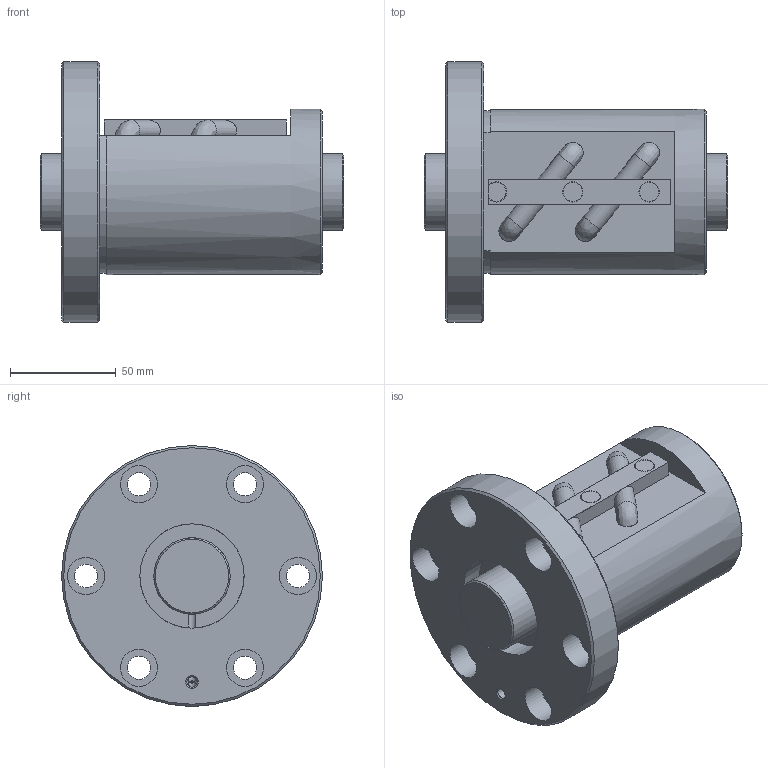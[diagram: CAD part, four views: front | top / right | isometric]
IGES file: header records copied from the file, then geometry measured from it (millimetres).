
Start section: Data from Parasolid IGES Translator 26.0.171, Copyright(c) 2006 Siemens PLM Software. All Rights Reserved.
Global section: file name: BIF3612V-5RRG0+143LC0_000.igs; native system: By Siemens PLM Incorporated; preprocessor: XPlus GENERIC/IGES 26.0.171; author: Noname; organization: Noname; date: 20240715.082350; units: millimetre
Bounding box: 143 x 123 x 123 mm (x, y, z)
Surface area: 94509.9 mm2 (no closed solid volume)
Topology: 0 solids, 0 shells, 96 faces, 451 edges, 403 vertices
Faces by surface type: revolution 53, extrusion 43
